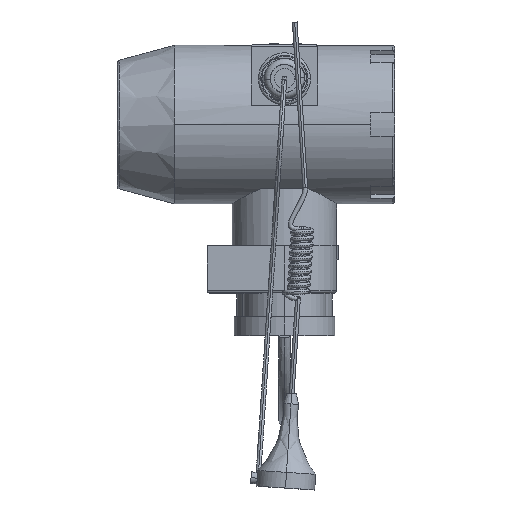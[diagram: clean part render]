
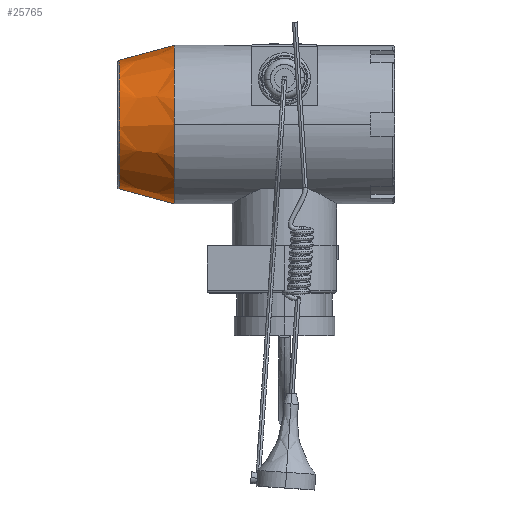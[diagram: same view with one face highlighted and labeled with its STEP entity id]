
A CAD part, top view. The second image highlights one B-rep face of the part: STEP entity #25765.
In plain terms, the highlighted free-form (B-spline) face has degree [3, 3] with [11, 4] control points.
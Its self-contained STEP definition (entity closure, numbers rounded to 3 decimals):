
#337=CARTESIAN_POINT('',(-46.5,71.141,33.5));
#338=CARTESIAN_POINT('',(-46.5,72.482,33.5));
#339=CARTESIAN_POINT('',(-46.493,75.17,33.339));
#340=CARTESIAN_POINT('',(-46.49,79.157,32.611));
#341=CARTESIAN_POINT('',(-46.502,83.038,31.405));
#342=CARTESIAN_POINT('',(-46.496,86.768,29.725));
#343=CARTESIAN_POINT('',(-46.489,90.232,27.627));
#344=CARTESIAN_POINT('',(-46.5,93.423,25.123));
#345=CARTESIAN_POINT('',(-46.5,96.268,22.278));
#346=CARTESIAN_POINT('',(-46.489,98.771,19.087));
#347=CARTESIAN_POINT('',(-46.496,100.866,15.626));
#348=CARTESIAN_POINT('',(-46.502,102.545,11.9));
#349=CARTESIAN_POINT('',(-46.49,103.753,8.015));
#350=CARTESIAN_POINT('',(-46.493,104.482,4.011));
#351=CARTESIAN_POINT('',(-46.5,104.641,1.334));
#352=CARTESIAN_POINT('',(-46.5,104.641,0.));
#8425=CARTESIAN_POINT('',(-46.5,37.641,0.));
#8426=CARTESIAN_POINT('',(-46.5,37.641,1.334));
#8427=CARTESIAN_POINT('',(-46.493,37.8,4.012));
#8428=CARTESIAN_POINT('',(-46.49,38.529,8.016));
#8429=CARTESIAN_POINT('',(-46.502,39.738,11.9));
#8430=CARTESIAN_POINT('',(-46.496,41.417,15.627));
#8431=CARTESIAN_POINT('',(-46.489,43.512,19.088));
#8432=CARTESIAN_POINT('',(-46.5,46.015,22.279));
#8433=CARTESIAN_POINT('',(-46.5,48.859,25.124));
#8434=CARTESIAN_POINT('',(-46.489,52.05,27.627));
#8435=CARTESIAN_POINT('',(-46.496,55.512,29.724));
#8436=CARTESIAN_POINT('',(-46.502,59.242,31.404));
#8437=CARTESIAN_POINT('',(-46.49,63.124,32.611));
#8438=CARTESIAN_POINT('',(-46.493,67.112,33.339));
#8439=CARTESIAN_POINT('',(-46.5,69.8,33.5));
#8440=CARTESIAN_POINT('',(-46.5,71.141,33.5));
#9048=DIRECTION('',(-0.965,-0.261,0.));
#9049=VECTOR('',#9048,24.099);
#9050=CARTESIAN_POINT('',(-46.5,104.641,0.));
#9051=LINE('',#9050,#9049);
#9176=CARTESIAN_POINT('',(-69.761,43.941,
0.));
#9177=CARTESIAN_POINT('',(-69.761,43.941,3.56));
#9178=CARTESIAN_POINT('',(-69.761,45.357,10.68));
#9179=CARTESIAN_POINT('',(-69.761,51.407,19.734));
#9180=CARTESIAN_POINT('',(-69.761,60.461,25.784));
#9181=CARTESIAN_POINT('',(-69.761,71.141,27.908));
#9182=CARTESIAN_POINT('',(-69.761,81.821,25.784));
#9183=CARTESIAN_POINT('',(-69.761,90.875,19.734));
#9184=CARTESIAN_POINT('',(-69.761,96.925,10.68));
#9185=CARTESIAN_POINT('',(-69.761,98.341,3.56));
#9186=CARTESIAN_POINT('',(-69.761,98.341,
0.));
#9188=DIRECTION('',(-0.965,0.261,0.));
#9189=VECTOR('',#9188,24.099);
#9190=CARTESIAN_POINT('',(-46.5,37.641,0.));
#9191=LINE('',#9190,#9189);
#9231=VERTEX_POINT('',#8425);
#9232=VERTEX_POINT('',#8440);
#9233=VERTEX_POINT('',#352);
#9423=VERTEX_POINT('',#9176);
#9424=VERTEX_POINT('',#9186);
#25713=CARTESIAN_POINT('',(-46.027,37.58,
-2.111));
#25714=CARTESIAN_POINT('',(-54.093,39.761,
-1.974));
#25715=CARTESIAN_POINT('',(-62.16,41.941,
-1.837));
#25716=CARTESIAN_POINT('',(-70.227,44.121,
-1.7));
#25717=CARTESIAN_POINT('',(-46.027,37.253,
2.984));
#25718=CARTESIAN_POINT('',(-54.093,39.455,
2.79));
#25719=CARTESIAN_POINT('',(-62.16,41.657,
2.597));
#25720=CARTESIAN_POINT('',(-70.227,43.858,
2.403));
#25721=CARTESIAN_POINT('',(-46.027,38.865,
12.607));
#25722=CARTESIAN_POINT('',(-54.093,40.962,
11.788));
#25723=CARTESIAN_POINT('',(-62.16,43.059,
10.969));
#25724=CARTESIAN_POINT('',(-70.227,45.156,
10.15));
#25725=CARTESIAN_POINT('',(-46.027,46.743,
24.398));
#25726=CARTESIAN_POINT('',(-54.093,48.328,
22.813));
#25727=CARTESIAN_POINT('',(-62.16,49.913,
21.228));
#25728=CARTESIAN_POINT('',(-70.227,51.498,
19.643));
#25729=CARTESIAN_POINT('',(-46.027,57.937,
31.877));
#25730=CARTESIAN_POINT('',(-54.093,58.795,
29.806));
#25731=CARTESIAN_POINT('',(-62.16,59.653,
27.735));
#25732=CARTESIAN_POINT('',(-70.227,60.511,
25.664));
#25733=CARTESIAN_POINT('',(-46.027,71.141,
34.504));
#25734=CARTESIAN_POINT('',(-54.093,71.141,
32.262));
#25735=CARTESIAN_POINT('',(-62.16,71.141,
30.02));
#25736=CARTESIAN_POINT('',(-70.227,71.141,
27.779));
#25737=CARTESIAN_POINT('',(-46.027,84.345,
31.877));
#25738=CARTESIAN_POINT('',(-54.093,83.487,
29.806));
#25739=CARTESIAN_POINT('',(-62.16,82.629,
27.735));
#25740=CARTESIAN_POINT('',(-70.227,81.772,
25.664));
#25741=CARTESIAN_POINT('',(-46.027,95.539,
24.398));
#25742=CARTESIAN_POINT('',(-54.093,93.954,
22.813));
#25743=CARTESIAN_POINT('',(-62.16,92.369,
21.228));
#25744=CARTESIAN_POINT('',(-70.227,90.784,
19.643));
#25745=CARTESIAN_POINT('',(-46.027,103.417,
12.607));
#25746=CARTESIAN_POINT('',(-54.093,101.32,
11.788));
#25747=CARTESIAN_POINT('',(-62.16,99.223,
10.969));
#25748=CARTESIAN_POINT('',(-70.227,97.127,
10.15));
#25749=CARTESIAN_POINT('',(-46.027,105.029,
2.984));
#25750=CARTESIAN_POINT('',(-54.093,102.827,
2.79));
#25751=CARTESIAN_POINT('',(-62.16,100.626,
2.597));
#25752=CARTESIAN_POINT('',(-70.227,98.424,
2.403));
#25753=CARTESIAN_POINT('',(-46.027,104.702,
-2.111));
#25754=CARTESIAN_POINT('',(-54.093,102.521,
-1.974));
#25755=CARTESIAN_POINT('',(-62.16,100.341,
-1.837));
#25756=CARTESIAN_POINT('',(-70.227,98.161,
-1.7));
#25757=B_SPLINE_SURFACE_WITH_KNOTS('',3,3,((#25713,#25714,#25715,#25716),
(#25717,#25718,#25719,#25720),(#25721,#25722,#25723,#25724),(#25725,#25726,
#25727,#25728),(#25729,#25730,#25731,#25732),(#25733,#25734,#25735,#25736),(
#25737,#25738,#25739,#25740),(#25741,#25742,#25743,#25744),(#25745,#25746,
#25747,#25748),(#25749,#25750,#25751,#25752),(#25753,#25754,#25755,#25756)),
.UNSPECIFIED.,.F.,.F.,.F.,(4,1,1,1,1,1,1,1,4),(4,4),(-0.01,0.063,0.125,
0.188,0.25,0.313,0.375,0.438,0.51),(-0.473,
23.727),.UNSPECIFIED.);
#25758=ORIENTED_EDGE('',*,*,#25707,.T.);
#25759=ORIENTED_EDGE('',*,*,#25247,.F.);
#25760=ORIENTED_EDGE('',*,*,#12471,.F.);
#25761=ORIENTED_EDGE('',*,*,#23900,.F.);
#25762=ORIENTED_EDGE('',*,*,#25243,.T.);
#25763=EDGE_LOOP('',(#25758,#25759,#25760,#25761,#25762));
#25764=FACE_OUTER_BOUND('',#25763,.F.);
#25765=ADVANCED_FACE('',(#25764),#25757,.T.);
#353=B_SPLINE_CURVE_WITH_KNOTS('',3,(#337,#338,#339,#340,#341,#342,#343,#344,
#345,#346,#347,#348,#349,#350,#351,#352),.UNSPECIFIED.,.F.,.F.,(4,1,1,1,1,1,1,1,
1,1,1,1,1,4),(0.,0.077,0.154,0.231,
0.308,0.385,0.462,0.538,
0.615,0.692,0.769,0.846,
0.923,1.),.UNSPECIFIED.);
#8441=B_SPLINE_CURVE_WITH_KNOTS('',3,(#8425,#8426,#8427,#8428,#8429,#8430,#8431,
#8432,#8433,#8434,#8435,#8436,#8437,#8438,#8439,#8440),.UNSPECIFIED.,.F.,.F.,(4,
1,1,1,1,1,1,1,1,1,1,1,1,4),(0.,0.077,0.154,
0.231,0.308,0.385,0.462,
0.538,0.615,0.692,0.769,
0.846,0.923,1.),.UNSPECIFIED.);
#9187=B_SPLINE_CURVE_WITH_KNOTS('',3,(#9176,#9177,#9178,#9179,#9180,#9181,#9182,
#9183,#9184,#9185,#9186),.UNSPECIFIED.,.F.,.F.,(4,1,1,1,1,1,1,1,4),(0.,
0.125,0.25,0.375,0.5,0.625,0.75,0.875,1.),.UNSPECIFIED.);
#12471=EDGE_CURVE('',#9232,#9233,#353,.T.);
#23900=EDGE_CURVE('',#9231,#9232,#8441,.T.);
#25243=EDGE_CURVE('',#9231,#9423,#9191,.T.);
#25247=EDGE_CURVE('',#9233,#9424,#9051,.T.);
#25707=EDGE_CURVE('',#9423,#9424,#9187,.T.);
